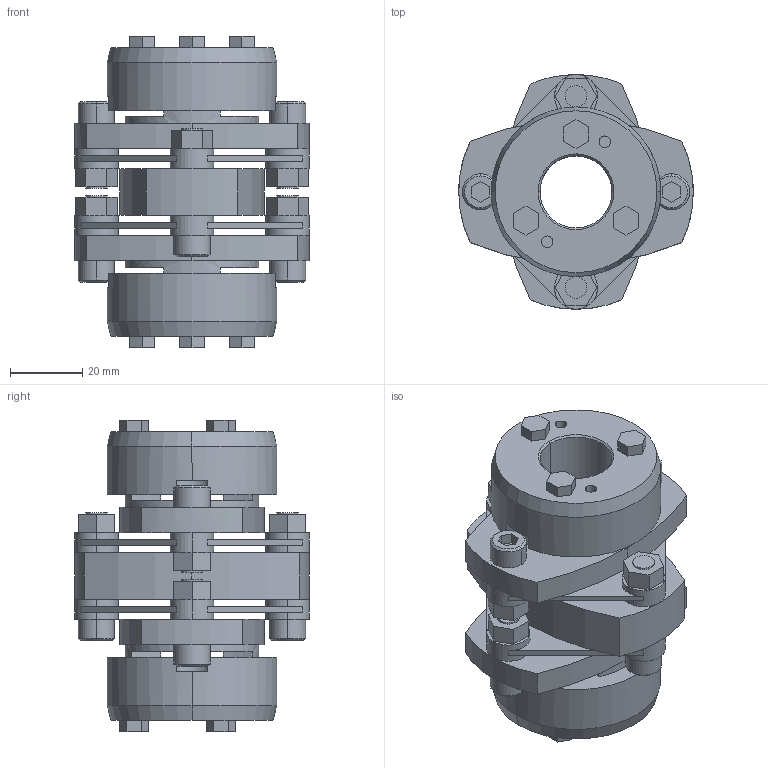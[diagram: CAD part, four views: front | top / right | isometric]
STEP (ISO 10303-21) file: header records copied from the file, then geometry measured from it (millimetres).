
FILE_DESCRIPTION((''),'2;1');
FILE_NAME('LCD-65T7-20×20.stp','2011-08-23T14:06:05',(''),(''),'AutoCAD STEP 2000i','AutoCAD 2000i',', , ');
FILE_SCHEMA(('CONFIG_CONTROL_DESIGN'));
Length unit declared in the file: millimetre
Products named in the file (9): LCD-65T7-19×19; 忣兜1; LC65T7-T019-1; LC65T7-T019; LC65T7-T017-1; LC65T7-T017; LC65T7-T015-1; LC65T7-T015; LCD65-ITA
Assembly tree (8 placements, depth 2):
  LCD-65T7-19×19
    忣兜1
    LC65T7-T019-1
    LC65T7-T019
    LC65T7-T017-1
    LC65T7-T017
    LC65T7-T015-1
    LC65T7-T015
    LCD65-ITA
Bounding box: 65 x 65 x 86.4 mm (x, y, z)
Volume: 116167.7 mm3; surface area: 41397.1 mm2
Topology: 1 solids, 1 shells, 304 faces, 792 edges, 516 vertices
Faces by surface type: plane 180, cylinder 100, cone 24
Entity records: 9619 total; most frequent: DIRECTION 1710, CARTESIAN_POINT 1621, ORIENTED_EDGE 1584, EDGE_CURVE 792, AXIS2_PLACEMENT_3D 605, VERTEX_POINT 516, VECTOR 500, LINE 500
